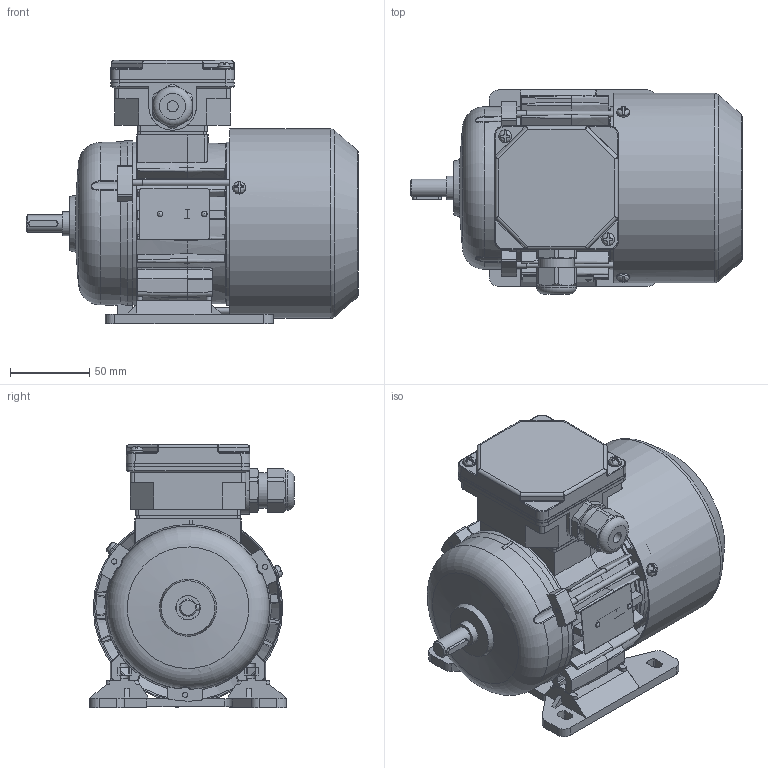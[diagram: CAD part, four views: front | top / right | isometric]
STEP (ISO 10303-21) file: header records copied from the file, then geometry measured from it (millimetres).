
FILE_DESCRIPTION( ( 'Unknown' ), '1' );
FILE_NAME( 'G:/Poczta Tk-1/STP/w.m.63/Sh63/Sh63-B.stp', 'Unknown', ( 'K. Szlosek' ), ( 'BESEL S.A.' ), 'PSStep 17.0.49', 'Unknown', ' ' );
FILE_SCHEMA( ( 'AUTOMOTIVE_DESIGN { 1 0 10303 214 1 1 1 1 }' ) );
Length unit declared in the file: millimetre
Products named in the file (30): Assem1; K3-9973 Kadłub ze stojanem wykończonym Sh63-B; K3-5320 Tarcza łożyskowa P Sg63; Łożysko 6202; K3-9974 Wał Sh63-B; K2-1769 Przewietrznik Sg63; K3-5321 osłona przewietrznika Sg63; Wpust A4x4x18; Śruba ściągająca E_M4x80; K4-2320 Uszczelka nr 1 Sh71,80; K4-2820 Uszczelka nr 2 Sh71,80; K2-0859 Podstawa skrzynki 6-cio zaciskowej; K2-0860 Pokrywka skrzynki zaciskowej; Wkręt samogwintujący M4x8; Wkręt samogwintujący M4x16; Dławnica M20x1,5; Tabliczka znamionowa 32x44; Nitokołek A 2x6; K1-1107 Łapa Sg63-.. w. robocza; K2-1763 Tarcza łożyskowa N Sh63
Assembly tree (46 placements, depth 2):
  Assem1
    K3-9973 Kadłub ze stojanem wykończonym Sh63-B
    K3-5320 Tarcza łożyskowa P Sg63
    Łożysko 6202  x2
    Łożysko 6202  x2
    Łożysko 6202  x2
    Łożysko 6202  x2
    Łożysko 6202  x2
    Łożysko 6202  x2
    Łożysko 6202  x2
    Łożysko 6202  x2
    Łożysko 6202  x2
    Łożysko 6202  x2
    Łożysko 6202  x2
    K3-9974 Wał Sh63-B
    K2-1769 Przewietrznik Sg63
    K3-5321 osłona przewietrznika Sg63
    Wpust A4x4x18
    Śruba ściągająca E_M4x80  x3
    K4-2320 Uszczelka nr 1 Sh71,80
    K4-2820 Uszczelka nr 2 Sh71,80
    K2-0859 Podstawa skrzynki 6-cio zaciskowej
    K2-0860 Pokrywka skrzynki zaciskowej
    Wkręt samogwintujący M4x8  x3
    Wkręt samogwintujący M4x16  x2
    Dławnica M20x1,5
    Tabliczka znamionowa 32x44
    Nitokołek A 2x6  x2
    K1-1107 Łapa Sg63-.. w. robocza
    K2-1763 Tarcza łożyskowa N Sh63
Bounding box: 209.5 x 129 x 166 mm (x, y, z)
Volume: 514750.6 mm3; surface area: 351530.9 mm2
Topology: 46 solids, 64 shells, 2053 faces, 5667 edges, 3675 vertices
Faces by surface type: plane 1021, cylinder 577, cone 160, torus 144, bspline 112, sphere 39
Full cylindrical faces by diameter (mm): 2 x2, 2.4 x2, 3.242 x3, 3.7 x10, 4 x8, 4.5 x4, 4.8 x4, 5 x4, 5.8 x4, 7 x4, 8 x6, 11 x1, 12.9 x1, 13.1 x1, 13.5 x1, 15 x4, 15.4 x2, 18.376 x1, 18.38 x1, 19 x2, 19.5 x1, 20 x2, 20.1 x1, 21.52 x4, 22.3 x1, 25 x1, 28 x2, 28.48 x4, 31 x2, 32 x1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
Entity records: 92821 total; most frequent: CARTESIAN_POINT 30361, ORIENTED_EDGE 9924, DIRECTION 9377, EDGE_CURVE 4962, AXIS2_PLACEMENT_3D 3494, VERTEX_POINT 3360, LINE 2389, VECTOR 2389
